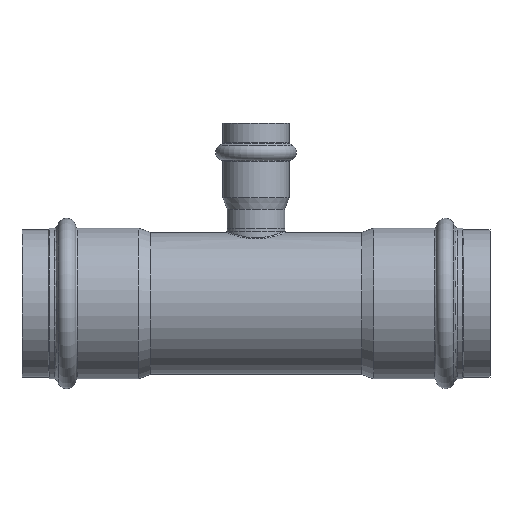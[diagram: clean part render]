
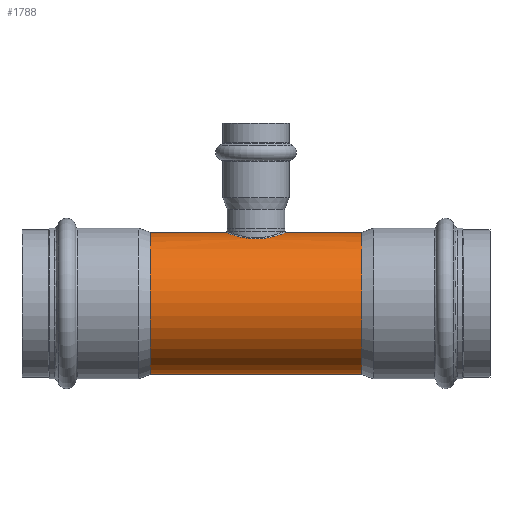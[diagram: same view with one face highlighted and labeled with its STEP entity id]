
A CAD part, top view. The second image highlights one B-rep face of the part: STEP entity #1788.
In plain terms, the highlighted cylindrical face has radius 27 mm (diameter 54 mm), a full revolution.
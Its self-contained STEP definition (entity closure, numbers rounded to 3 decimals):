
#1605=CARTESIAN_POINT('',(0.,24.526,-11.291));
#1606=VERTEX_POINT('',#1605);
#1676=CARTESIAN_POINT('',(0.,24.526,-11.291));
#1677=CARTESIAN_POINT('',(-0.434,24.526,-11.291));
#1678=CARTESIAN_POINT('',(-1.193,24.545,-11.249));
#1679=CARTESIAN_POINT('',(-2.048,24.605,-11.117));
#1680=CARTESIAN_POINT('',(-2.894,24.685,-10.938));
#1681=CARTESIAN_POINT('',(-3.832,24.803,-10.671));
#1682=CARTESIAN_POINT('',(-4.925,24.992,-10.223));
#1683=CARTESIAN_POINT('',(-5.676,25.149,-9.827));
#1684=CARTESIAN_POINT('',(-6.407,25.316,-9.389));
#1685=CARTESIAN_POINT('',(-7.193,25.516,-8.84));
#1686=CARTESIAN_POINT('',(-8.071,25.771,-8.068));
#1687=CARTESIAN_POINT('',(-8.647,25.953,-7.453));
#1688=CARTESIAN_POINT('',(-9.455,26.219,-6.488));
#1689=CARTESIAN_POINT('',(-10.091,26.449,-5.502));
#1690=CARTESIAN_POINT('',(-10.561,26.627,-4.476));
#1691=CARTESIAN_POINT('',(-11.099,26.835,-3.175));
#1692=CARTESIAN_POINT('',(-11.643,27.06,-0.87));
#1693=CARTESIAN_POINT('',(-11.45,26.979,1.636));
#1694=CARTESIAN_POINT('',(-11.051,26.819,3.144));
#1695=CARTESIAN_POINT('',(-10.876,26.75,3.681));
#1696=CARTESIAN_POINT('',(-10.55,26.623,4.539));
#1697=CARTESIAN_POINT('',(-9.985,26.408,5.687));
#1698=CARTESIAN_POINT('',(-9.215,26.138,6.789));
#1699=CARTESIAN_POINT('',(-8.485,25.9,7.637));
#1700=CARTESIAN_POINT('',(-7.689,25.655,8.434));
#1701=CARTESIAN_POINT('',(-6.516,25.335,9.354));
#1702=CARTESIAN_POINT('',(-5.286,25.06,10.055));
#1703=CARTESIAN_POINT('',(-3.714,24.778,10.734));
#1704=CARTESIAN_POINT('',(-2.108,24.585,11.162));
#1705=CARTESIAN_POINT('',(-0.087,24.506,11.334));
#1706=CARTESIAN_POINT('',(1.65,24.557,11.223));
#1707=CARTESIAN_POINT('',(3.411,24.736,10.828));
#1708=CARTESIAN_POINT('',(4.827,24.969,10.28));
#1709=CARTESIAN_POINT('',(5.834,25.183,9.742));
#1710=CARTESIAN_POINT('',(6.787,25.409,9.141));
#1711=CARTESIAN_POINT('',(7.623,25.637,8.486));
#1712=CARTESIAN_POINT('',(8.43,25.883,7.695));
#1713=CARTESIAN_POINT('',(9.173,26.124,6.849));
#1714=CARTESIAN_POINT('',(9.869,26.368,5.853));
#1715=CARTESIAN_POINT('',(10.663,26.664,4.345));
#1716=CARTESIAN_POINT('',(11.406,26.96,2.195));
#1717=CARTESIAN_POINT('',(11.599,27.041,-0.288));
#1718=CARTESIAN_POINT('',(11.25,26.897,-2.538));
#1719=CARTESIAN_POINT('',(10.738,26.694,-4.161));
#1720=CARTESIAN_POINT('',(9.979,26.406,-5.696));
#1721=CARTESIAN_POINT('',(9.095,26.096,-6.962));
#1722=CARTESIAN_POINT('',(8.147,25.792,-8.003));
#1723=CARTESIAN_POINT('',(6.868,25.423,-9.123));
#1724=CARTESIAN_POINT('',(5.425,25.078,-10.018));
#1725=CARTESIAN_POINT('',(3.827,24.802,-10.673));
#1726=CARTESIAN_POINT('',(2.168,24.594,-11.145));
#1727=CARTESIAN_POINT('',(0.867,24.526,-11.291));
#1728=CARTESIAN_POINT('',(0.,24.526,-11.291));
#1729=CARTESIAN_POINT('',(0.,24.526,-11.291));
#1730=CARTESIAN_POINT('',(0.,24.526,-11.291));
#1731=CARTESIAN_POINT('',(0.,24.526,-11.291));
#1732=B_SPLINE_CURVE_WITH_KNOTS('',3,(#1676,#1677,#1678,#1679,#1680,#1681,#1682,#1683,#1684,#1685,#1686,#1687,#1688,#1689,#1690,#1691,#1692,#1693,#1694,#1695,#1696,#1697,#1698,#1699,#1700,#1701,#1702,#1703,#1704,#1705,#1706,#1707,#1708,#1709,#1710,#1711,#1712,#1713,#1714,#1715,#1716,#1717,#1718,#1719,#1720,#1721,#1722,#1723,#1724,#1725,#1726,#1727,#1728,#1729,#1730,#1731),.UNSPECIFIED.,.T.,.U.,(4,1,1,1,1,1,1,1,1,1,1,1,1,1,1,1,1,1,1,1,1,1,1,1,1,1,1,1,1,1,1,1,1,1,1,1,1,1,1,1,1,1,1,1,1,1,1,1,1,1,3,4),(-6.715,-6.595,-6.506,-6.476,-6.356,-6.236,-6.146,-6.116,-5.996,-5.876,-5.786,-5.756,-5.516,-5.456,-5.436,-5.116,-4.797,-4.737,-4.677,-4.637,-4.477,-4.317,-4.257,-4.157,-3.997,-3.837,-3.757,-3.518,-3.378,-3.198,-3.038,-2.878,-2.778,-2.718,-2.558,-2.478,-2.398,-2.238,-2.132,-1.919,-1.599,-1.439,-1.279,-1.119,-0.959,-0.839,-0.72,-0.48,-0.36,-0.24,0.0,0.),.UNSPECIFIED.);
#1733=EDGE_CURVE('',#1606,#1606,#1732,.T.);
#1758=CARTESIAN_POINT('',(0.,0.,0.0));
#1759=DIRECTION('',(1.0,0.,0.0));
#1760=DIRECTION('',(0.0,1.0,0.0));
#1761=AXIS2_PLACEMENT_3D('',#1758,#1759,#1760);
#1762=CYLINDRICAL_SURFACE('',#1761,27.);
#1763=CARTESIAN_POINT('',(-40.133,27.,0.0));
#1764=VERTEX_POINT('',#1763);
#1765=CARTESIAN_POINT('',(-40.133,0.,0.0));
#1766=DIRECTION('',(1.0,0.0,0.0));
#1767=DIRECTION('',(0.0,1.0,0.0));
#1768=AXIS2_PLACEMENT_3D('',#1765,#1766,#1767);
#1769=CIRCLE('',#1768,27.0);
#1770=EDGE_CURVE('',#1764,#1764,#1769,.T.);
#1771=ORIENTED_EDGE('',*,*,#1770,.T.);
#1772=EDGE_LOOP('',(#1771));
#1773=FACE_OUTER_BOUND('',#1772,.T.);
#1774=CARTESIAN_POINT('',(40.133,27.,0.0));
#1775=VERTEX_POINT('',#1774);
#1776=CARTESIAN_POINT('',(40.133,0.,0.0));
#1777=DIRECTION('',(1.0,0.0,0.0));
#1778=DIRECTION('',(0.0,1.0,0.0));
#1779=AXIS2_PLACEMENT_3D('',#1776,#1777,#1778);
#1780=CIRCLE('',#1779,27.);
#1781=EDGE_CURVE('',#1775,#1775,#1780,.T.);
#1782=ORIENTED_EDGE('',*,*,#1781,.F.);
#1783=EDGE_LOOP('',(#1782));
#1784=FACE_BOUND('',#1783,.T.);
#1785=ORIENTED_EDGE('',*,*,#1733,.F.);
#1786=EDGE_LOOP('',(#1785));
#1787=FACE_BOUND('',#1786,.T.);
#1788=ADVANCED_FACE('',(#1773,#1784,#1787),#1762,.T.);
